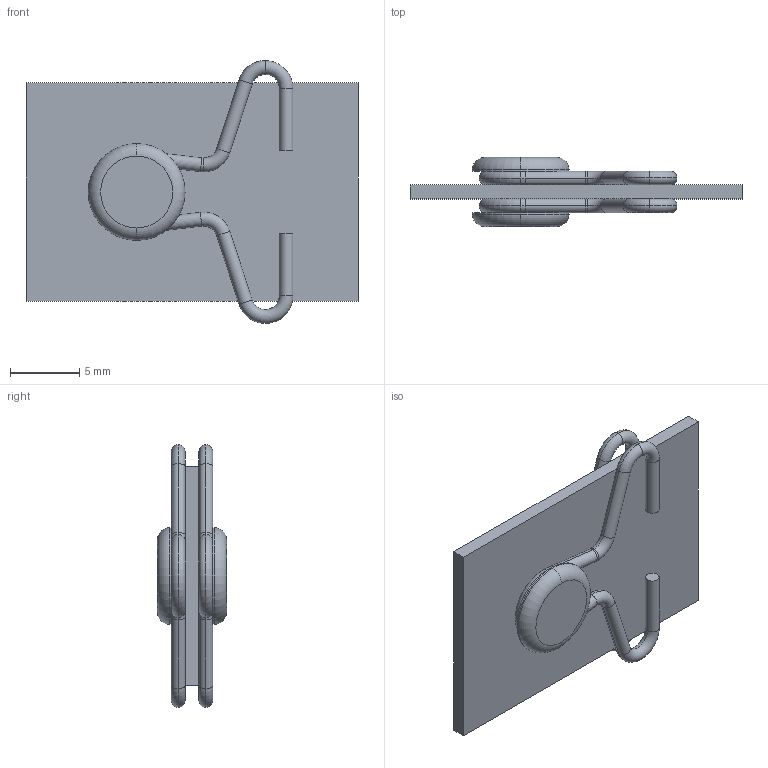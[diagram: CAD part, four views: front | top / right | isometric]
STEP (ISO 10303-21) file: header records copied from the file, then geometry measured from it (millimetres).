
FILE_DESCRIPTION (( 'STEP AP203' ), '1' );
FILE_NAME ('RLA-16x24.STEP', '2015-12-10T16:10:28', ( 'Balzi' ), ( '' ), 'SwSTEP 2.0', 'SolidWorks 2015', '' );
FILE_SCHEMA (( 'CONFIG_CONTROL_DESIGN' ));
Length unit declared in the file: millimetre
Products named in the file (1): RLA-16x24
Bounding box: 24 x 5 x 18.99 mm (x, y, z)
Volume: 514.4 mm3; surface area: 1319.4 mm2
Topology: 5 solids, 5 shells, 84 faces, 162 edges, 88 vertices
Faces by surface type: torus 40, cylinder 30, plane 14
Entity records: 2199 total; most frequent: DIRECTION 452, CARTESIAN_POINT 335, ORIENTED_EDGE 324, AXIS2_PLACEMENT_3D 205, EDGE_CURVE 162, CIRCLE 120, VERTEX_POINT 88, EDGE_LOOP 86
